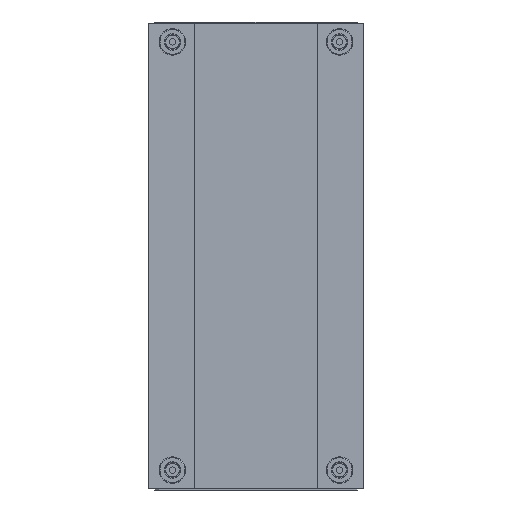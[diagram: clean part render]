
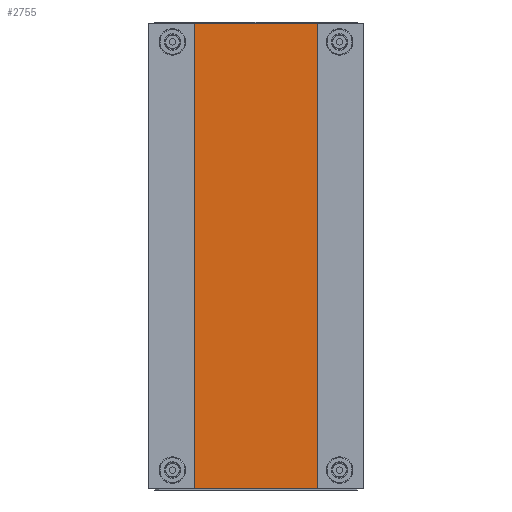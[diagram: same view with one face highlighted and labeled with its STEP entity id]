
A CAD part, front view. The second image highlights one B-rep face of the part: STEP entity #2755.
In plain terms, the highlighted planar face has unit normal (0, -1, 0).
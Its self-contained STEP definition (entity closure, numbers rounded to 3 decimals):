
#1924 = CARTESIAN_POINT ( 'NONE',  ( -63., -20., -223. ) ) ;
#2172 = LINE ( 'NONE', #2173, #2174 ) ;
#2173 = CARTESIAN_POINT ( 'NONE',  ( 63., -20., 223. ) ) ;
#2174 = VECTOR ( 'NONE', #2175, 1000. ) ;
#2175 = DIRECTION ( 'NONE',  ( 1., 0., 0. ) ) ;
#2755 = ADVANCED_FACE ( 'NONE', ( #8600 ), #8601, .F. ) ;
#2780 = LINE ( 'NONE', #2781, #2782 ) ;
#2781 = CARTESIAN_POINT ( 'NONE',  ( -63., -20., 223. ) ) ;
#2782 = VECTOR ( 'NONE', #2783, 1000. ) ;
#2783 = DIRECTION ( 'NONE',  ( 0., 0., -1. ) ) ;
#2954 = EDGE_LOOP ( 'NONE', ( #3541, #4610, #5235, #6255 ) ) ;
#3086 = CARTESIAN_POINT ( 'NONE',  ( -63., -20., 223. ) ) ;
#3541 = ORIENTED_EDGE ( 'NONE', *, *, #3960, .T. ) ;
#3960 = EDGE_CURVE ( 'NONE', #5328, #4349, #9370, .T. ) ;
#4349 = VERTEX_POINT ( 'NONE', #9576 ) ;
#4610 = ORIENTED_EDGE ( 'NONE', *, *, #9849, .F. ) ;
#4982 = CARTESIAN_POINT ( 'NONE',  ( 63., -20., 223. ) ) ;
#5235 = ORIENTED_EDGE ( 'NONE', *, *, #5608, .F. ) ;
#5328 = VERTEX_POINT ( 'NONE', #1924 ) ;
#5608 = EDGE_CURVE ( 'NONE', #6574, #9064, #2172, .T. ) ;
#5634 = LINE ( 'NONE', #5635, #5636 ) ;
#5635 = CARTESIAN_POINT ( 'NONE',  ( 63., -20., 223. ) ) ;
#5636 = VECTOR ( 'NONE', #5637, 1000. ) ;
#5637 = DIRECTION ( 'NONE',  ( 0., 0., -1. ) ) ;
#6254 = EDGE_CURVE ( 'NONE', #6574, #5328, #2780, .T. ) ;
#6255 = ORIENTED_EDGE ( 'NONE', *, *, #6254, .T. ) ;
#6574 = VERTEX_POINT ( 'NONE', #3086 ) ;
#8600 = FACE_OUTER_BOUND ( 'NONE', #2954, .T. ) ;
#8601 = PLANE ( 'NONE',  #8602 ) ;
#8602 = AXIS2_PLACEMENT_3D ( 'NONE', #8603, #8604, #8605 ) ;
#8603 = CARTESIAN_POINT ( 'NONE',  ( 63., -20., 223. ) ) ;
#8604 = DIRECTION ( 'NONE',  ( 0., 1., 0. ) ) ;
#8605 = DIRECTION ( 'NONE',  ( -1., 0., 0. ) ) ;
#9064 = VERTEX_POINT ( 'NONE', #4982 ) ;
#9370 = LINE ( 'NONE', #9371, #9372 ) ;
#9371 = CARTESIAN_POINT ( 'NONE',  ( 63., -20., -223. ) ) ;
#9372 = VECTOR ( 'NONE', #9373, 1000. ) ;
#9373 = DIRECTION ( 'NONE',  ( 1., 0., 0. ) ) ;
#9576 = CARTESIAN_POINT ( 'NONE',  ( 63., -20., -223. ) ) ;
#9849 = EDGE_CURVE ( 'NONE', #9064, #4349, #5634, .T. ) ;
